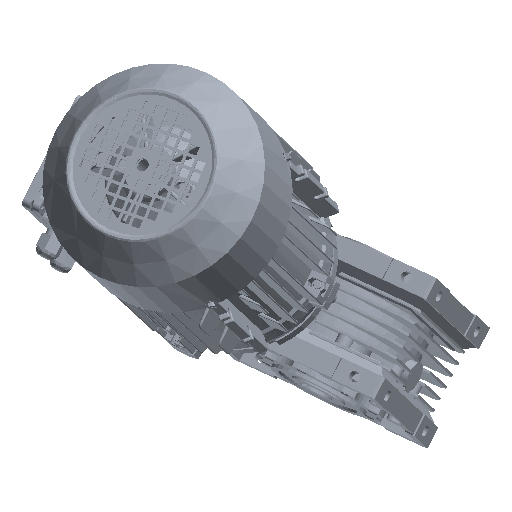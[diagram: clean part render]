
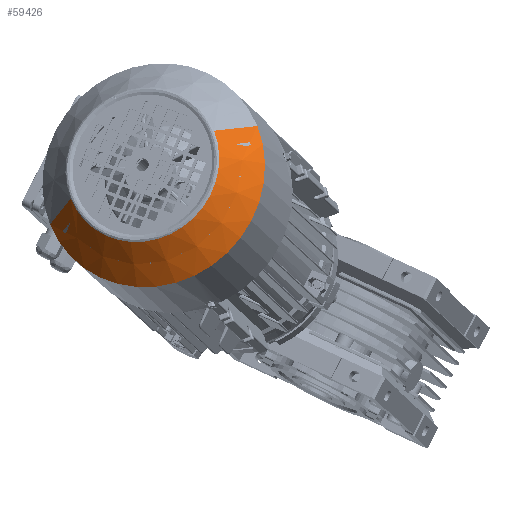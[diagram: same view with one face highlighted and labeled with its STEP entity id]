
A CAD part, isometric view. The second image highlights one B-rep face of the part: STEP entity #59426.
In plain terms, the highlighted conical face has half-angle 42 degrees and reference radius 87.55 mm.
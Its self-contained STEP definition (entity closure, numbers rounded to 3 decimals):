
#5457 = EDGE_CURVE ( 'NONE', #27185, #27199, #6752, .T. ) ;
#5466 = EDGE_CURVE ( 'NONE', #27207, #27185, #6762, .T. ) ;
#5469 = EDGE_CURVE ( 'NONE', #27214, #27201, #6779, .T. ) ;
#6752 = CIRCLE ( 'NONE', #189060, 87.55 ) ;
#6762 = LINE ( 'NONE', #10456, #6777 ) ;
#6777 = VECTOR ( 'NONE', #10437, 1000. ) ;
#6779 = LINE ( 'NONE', #10409, #6782 ) ;
#6782 = VECTOR ( 'NONE', #10452, 1000. ) ;
#10394 = CARTESIAN_POINT ( 'NONE',  ( 21.6, 0., 0. ) ) ;
#10398 = DIRECTION ( 'NONE',  ( -1., 0., 0. ) ) ;
#10401 = DIRECTION ( 'NONE',  ( 0., 0., 1. ) ) ;
#10409 = CARTESIAN_POINT ( 'NONE',  ( 21.6, -87.55, 0. ) ) ;
#10437 = DIRECTION ( 'NONE',  ( -0.743, 0.669, 0. ) ) ;
#10452 = DIRECTION ( 'NONE',  ( -0.743, -0.669, 0. ) ) ;
#10456 = CARTESIAN_POINT ( 'NONE',  ( 21.6, 87.55, 0. ) ) ;
#27185 = VERTEX_POINT ( 'NONE', #32744 ) ;
#27199 = VERTEX_POINT ( 'NONE', #32752 ) ;
#27201 = VERTEX_POINT ( 'NONE', #32753 ) ;
#27207 = VERTEX_POINT ( 'NONE', #32756 ) ;
#27214 = VERTEX_POINT ( 'NONE', #32759 ) ;
#28498 = VERTEX_POINT ( 'NONE', #33427 ) ;
#32744 = CARTESIAN_POINT ( 'NONE',  ( 21.6, 87.55, 0. ) ) ;
#32752 = CARTESIAN_POINT ( 'NONE',  ( 21.6, 0., -87.55 ) ) ;
#32753 = CARTESIAN_POINT ( 'NONE',  ( 21.6, -87.55, 0. ) ) ;
#32756 = CARTESIAN_POINT ( 'NONE',  ( 51.607, 60.531, 0. ) ) ;
#32759 = CARTESIAN_POINT ( 'NONE',  ( 51.607, -60.531, 0. ) ) ;
#33427 = CARTESIAN_POINT ( 'NONE',  ( 51.607, 0., -60.531 ) ) ;
#59426 = ADVANCED_FACE ( 'NONE', ( #82470 ), #82490, .T. ) ;
#66070 = EDGE_CURVE ( 'NONE', #27207, #28498, #200157, .T. ) ;
#66075 = EDGE_CURVE ( 'NONE', #28498, #27214, #200161, .T. ) ;
#66141 = EDGE_CURVE ( 'NONE', #27199, #27201, #200227, .T. ) ;
#79869 = ORIENTED_EDGE ( 'NONE', *, *, #5466, .F. ) ;
#79871 = ORIENTED_EDGE ( 'NONE', *, *, #66070, .T. ) ;
#79873 = ORIENTED_EDGE ( 'NONE', *, *, #66075, .T. ) ;
#79875 = ORIENTED_EDGE ( 'NONE', *, *, #5469, .T. ) ;
#79877 = ORIENTED_EDGE ( 'NONE', *, *, #66141, .F. ) ;
#79879 = ORIENTED_EDGE ( 'NONE', *, *, #5457, .F. ) ;
#82470 = FACE_OUTER_BOUND ( 'NONE', #92504, .T. ) ;
#82490 = CONICAL_SURFACE ( 'NONE', #191554, 87.55, 0.733 ) ;
#87946 = DIRECTION ( 'NONE',  ( -1., 0., 0. ) ) ;
#87957 = DIRECTION ( 'NONE',  ( 0., -1., 0. ) ) ;
#87969 = CARTESIAN_POINT ( 'NONE',  ( 21.6, 0., 0. ) ) ;
#92504 = EDGE_LOOP ( 'NONE', ( #79869, #79871, #79873, #79875, #79877, #79879 ) ) ;
#181964 = AXIS2_PLACEMENT_3D ( 'NONE', #201645, #201646, #201647 ) ;
#181968 = AXIS2_PLACEMENT_3D ( 'NONE', #201650, #201651, #201652 ) ;
#181992 = AXIS2_PLACEMENT_3D ( 'NONE', #201934, #201935, #201936 ) ;
#189060 = AXIS2_PLACEMENT_3D ( 'NONE', #10394, #10398, #10401 ) ;
#191554 = AXIS2_PLACEMENT_3D ( 'NONE', #87969, #87946, #87957 ) ;
#200157 = CIRCLE ( 'NONE', #181964, 60.531 ) ;
#200161 = CIRCLE ( 'NONE', #181968, 60.531 ) ;
#200227 = CIRCLE ( 'NONE', #181992, 87.55 ) ;
#201645 = CARTESIAN_POINT ( 'NONE',  ( 51.607, 0., 0. ) ) ;
#201646 = DIRECTION ( 'NONE',  ( -1., 0., 0. ) ) ;
#201647 = DIRECTION ( 'NONE',  ( 0., -1., 0. ) ) ;
#201650 = CARTESIAN_POINT ( 'NONE',  ( 51.607, 0., 0. ) ) ;
#201651 = DIRECTION ( 'NONE',  ( -1., 0., 0. ) ) ;
#201652 = DIRECTION ( 'NONE',  ( 0., -1., 0. ) ) ;
#201934 = CARTESIAN_POINT ( 'NONE',  ( 21.6, 0., 0. ) ) ;
#201935 = DIRECTION ( 'NONE',  ( -1., 0., 0. ) ) ;
#201936 = DIRECTION ( 'NONE',  ( 0., 0., 1. ) ) ;
